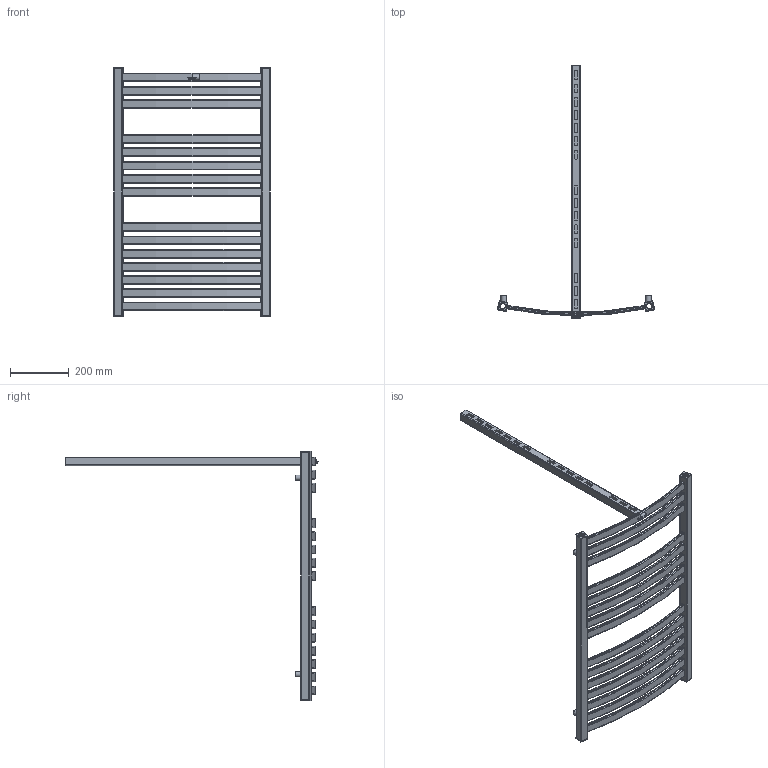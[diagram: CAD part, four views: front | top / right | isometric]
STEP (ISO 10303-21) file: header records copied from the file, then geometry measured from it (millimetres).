
FILE_DESCRIPTION( ( 'Unknown' ), '1' );
FILE_NAME( 'D:/Alplast sp. j/Witryna zespoBu - Projekty/Archiwum/Grzejniki Archiwum/Projekty/STANDARD/AK-EL/AK3-500EL.stp', 'Unknown', ( 'Unknown' ), ( 'Unknown' ), 'PSStep 10.1', 'Unknown', ' ' );
FILE_SCHEMA( ( 'AUTOMOTIVE_DESIGN { 1 0 10303 214 1 1 1 1 }' ) );
Length unit declared in the file: millimetre
Products named in the file (5): Assem1; zaslepka kwadrat otwor; tulejka kat 12stopni; kana³  poziomy lukowy L-500; AK3-EPEL
Bounding box: 534.78 x 861 x 850 mm (x, y, z)
Volume: 1230123.4 mm3; surface area: 1648536.5 mm2
Topology: 29 solids, 29 shells, 842 faces, 2342 edges, 1568 vertices
Faces by surface type: plane 376, cylinder 328, torus 138
Full cylindrical faces by diameter (mm): 16 x5, 18 x5, 18.631 x5, 23 x5
Entity records: 7792 total; most frequent: DIRECTION 1136, CARTESIAN_POINT 1078, ORIENTED_EDGE 1036, EDGE_CURVE 518, AXIS2_PLACEMENT_3D 408, VERTEX_POINT 350, LINE 320, VECTOR 320
